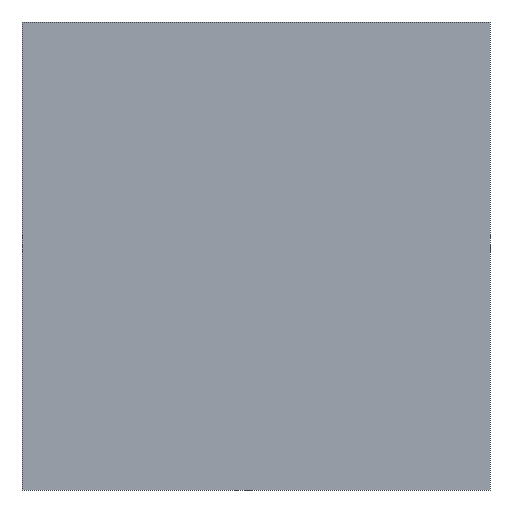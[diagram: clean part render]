
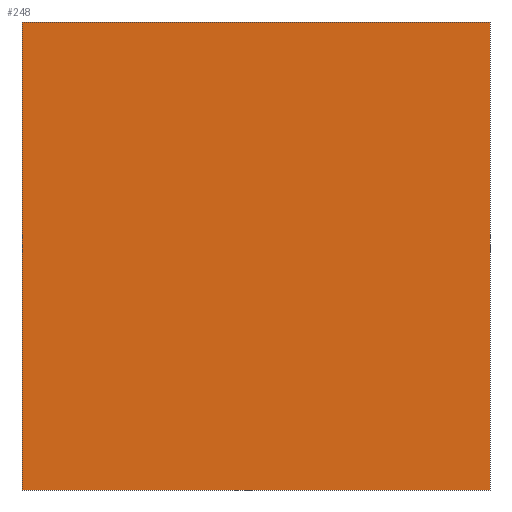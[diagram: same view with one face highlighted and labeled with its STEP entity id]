
A CAD part, front view. The second image highlights one B-rep face of the part: STEP entity #248.
In plain terms, the highlighted planar face has unit normal (0, -1, 0).
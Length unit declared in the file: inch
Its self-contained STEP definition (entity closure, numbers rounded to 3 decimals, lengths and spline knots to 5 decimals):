
#76=FACE_OUTER_BOUND('',#88,.T.);
#88=EDGE_LOOP('',(#203,#204,#205,#206));
#95=LINE('',#422,#119);
#99=LINE('',#430,#123);
#102=LINE('',#436,#126);
#105=LINE('',#441,#129);
#119=VECTOR('',#343,0.3937);
#123=VECTOR('',#349,0.3937);
#126=VECTOR('',#354,0.3937);
#129=VECTOR('',#359,0.3937);
#143=VERTEX_POINT('',#420);
#144=VERTEX_POINT('',#421);
#147=VERTEX_POINT('',#429);
#149=VERTEX_POINT('',#435);
#159=EDGE_CURVE('',#143,#144,#95,.T.);
#163=EDGE_CURVE('',#147,#143,#99,.T.);
#166=EDGE_CURVE('',#149,#147,#102,.T.);
#169=EDGE_CURVE('',#144,#149,#105,.T.);
#203=ORIENTED_EDGE('',*,*,#169,.F.);
#204=ORIENTED_EDGE('',*,*,#159,.F.);
#205=ORIENTED_EDGE('',*,*,#163,.F.);
#206=ORIENTED_EDGE('',*,*,#166,.F.);
#236=PLANE('',#316);
#248=ADVANCED_FACE('',(#76),#236,.F.);
#316=AXIS2_PLACEMENT_3D('',#444,#363,#364);
#343=DIRECTION('',(0.,0.,-1.));
#349=DIRECTION('',(1.,0.,0.));
#354=DIRECTION('',(0.,0.,1.));
#359=DIRECTION('',(-1.,0.,0.));
#363=DIRECTION('center_axis',(0.,1.,0.));
#364=DIRECTION('ref_axis',(0.,0.,1.));
#420=CARTESIAN_POINT('',(11.875,0.,11.875));
#421=CARTESIAN_POINT('',(11.875,0.,-11.875));
#422=CARTESIAN_POINT('',(11.875,0.,11.875));
#429=CARTESIAN_POINT('',(-11.875,0.,11.875));
#430=CARTESIAN_POINT('',(-11.875,0.,11.875));
#435=CARTESIAN_POINT('',(-11.875,0.,-11.875));
#436=CARTESIAN_POINT('',(-11.875,0.,-11.875));
#441=CARTESIAN_POINT('',(11.875,0.,-11.875));
#444=CARTESIAN_POINT('Origin',(0.,0.,0.));
